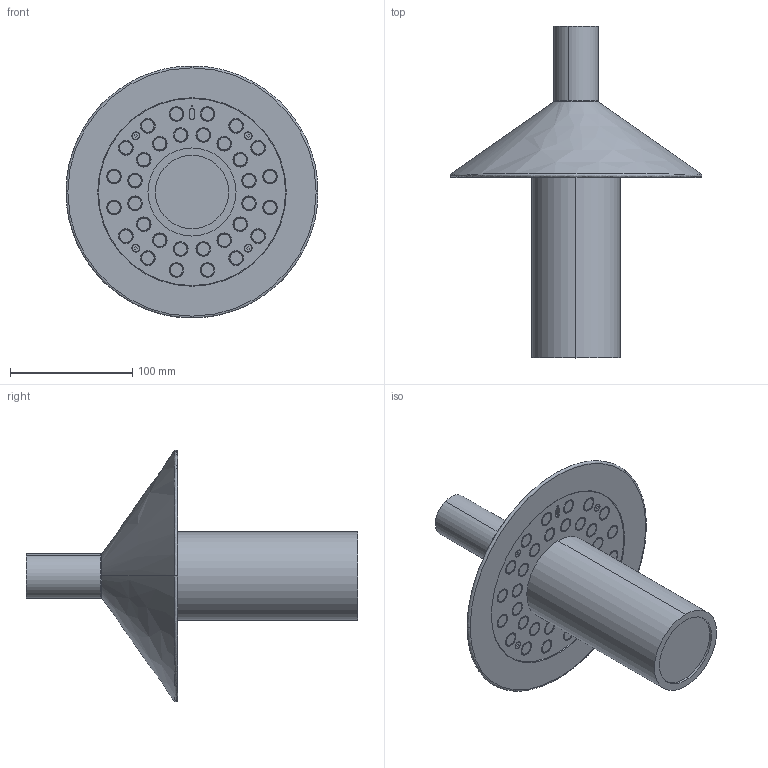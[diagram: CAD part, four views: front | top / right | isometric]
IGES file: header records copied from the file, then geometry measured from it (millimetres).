
Start section: SolidWorks IGES file using analytic representation for surfaces
Global section: file name: G:\Drive condivisi\Ufficio Tecnico\Prodotti\A03 Pepa\A03T0\Progetto\ATA-A03T0\3D Architetti\Model Pepa A03-T12 a.IGS; native system: SolidWorks 2023; preprocessor: SolidWorks 2023; author: Silvio; date: 240528.123153; units: millimetre
Bounding box: 206 x 271.3 x 205.98 mm (x, y, z)
Volume: 1403932.7 mm3; surface area: 198575.1 mm2
Topology: 9 solids, 9 shells, 587 faces, 1467 edges, 967 vertices
Faces by surface type: revolution 296, bspline 164, plane 127
